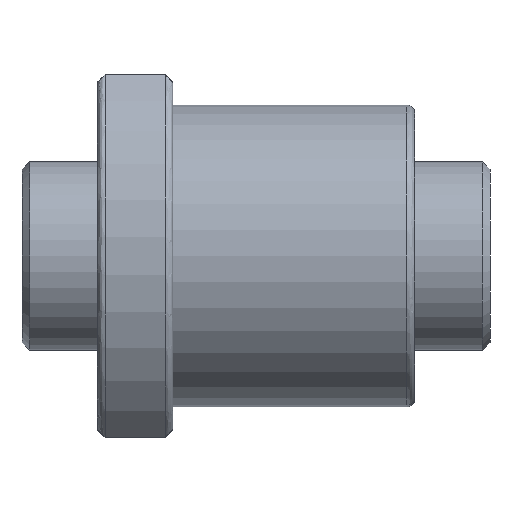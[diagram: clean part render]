
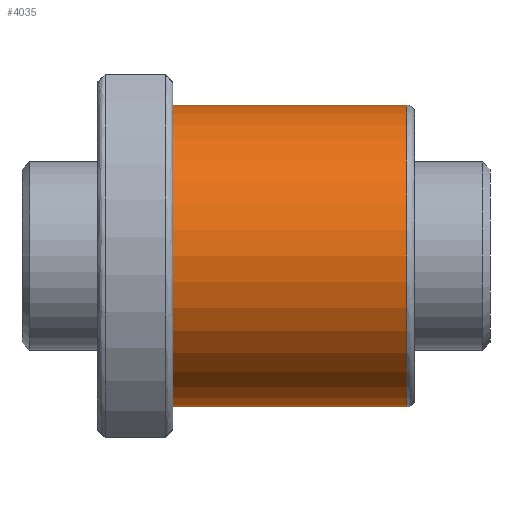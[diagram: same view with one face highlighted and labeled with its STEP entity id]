
A CAD part, front view. The second image highlights one B-rep face of the part: STEP entity #4035.
In plain terms, the highlighted cylindrical face has radius 20 mm (diameter 40 mm), a partial arc.
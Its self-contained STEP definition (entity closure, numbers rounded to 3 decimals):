
#19 = LINE ( 'NONE', #3706, #3997 ) ;
#54 = EDGE_CURVE ( 'NONE', #2564, #4201, #19, .T. ) ;
#143 = CARTESIAN_POINT ( 'NONE',  ( 42., 0., -20. ) ) ;
#231 = CYLINDRICAL_SURFACE ( 'NONE', #4049, 20. ) ;
#284 = DIRECTION ( 'NONE',  ( -1., 0., 0. ) ) ;
#307 = EDGE_CURVE ( 'NONE', #4201, #3646, #4492, .T. ) ;
#323 = ORIENTED_EDGE ( 'NONE', *, *, #2060, .F. ) ;
#346 = CARTESIAN_POINT ( 'NONE',  ( 41., 0., 0. ) ) ;
#1124 = VERTEX_POINT ( 'NONE', #3785 ) ;
#1184 = DIRECTION ( 'NONE',  ( 0., 0., 1. ) ) ;
#1479 = ORIENTED_EDGE ( 'NONE', *, *, #3379, .T. ) ;
#1535 = DIRECTION ( 'NONE',  ( -1., 0., 0. ) ) ;
#1537 = CARTESIAN_POINT ( 'NONE',  ( 10., 0., 0. ) ) ;
#1653 = AXIS2_PLACEMENT_3D ( 'NONE', #346, #3052, #3834 ) ;
#1923 = DIRECTION ( 'NONE',  ( 0., 0., 1. ) ) ;
#2060 = EDGE_CURVE ( 'NONE', #1124, #3646, #3263, .T. ) ;
#2118 = VECTOR ( 'NONE', #284, 1000. ) ;
#2397 = CARTESIAN_POINT ( 'NONE',  ( 10., 0., 20. ) ) ;
#2508 = EDGE_LOOP ( 'NONE', ( #323, #1479, #4898, #3296 ) ) ;
#2564 = VERTEX_POINT ( 'NONE', #3083 ) ;
#2669 = CARTESIAN_POINT ( 'NONE',  ( 42., 0., 0. ) ) ;
#3052 = DIRECTION ( 'NONE',  ( -1., 0., 0. ) ) ;
#3083 = CARTESIAN_POINT ( 'NONE',  ( 41., 0., 20. ) ) ;
#3248 = CARTESIAN_POINT ( 'NONE',  ( 10., 0., -20. ) ) ;
#3260 = AXIS2_PLACEMENT_3D ( 'NONE', #1537, #4234, #1184 ) ;
#3263 = LINE ( 'NONE', #143, #2118 ) ;
#3296 = ORIENTED_EDGE ( 'NONE', *, *, #307, .T. ) ;
#3379 = EDGE_CURVE ( 'NONE', #1124, #2564, #4229, .T. ) ;
#3646 = VERTEX_POINT ( 'NONE', #3248 ) ;
#3706 = CARTESIAN_POINT ( 'NONE',  ( 42., 0., 20. ) ) ;
#3785 = CARTESIAN_POINT ( 'NONE',  ( 41., 0., -20. ) ) ;
#3834 = DIRECTION ( 'NONE',  ( 0., 0., 1. ) ) ;
#3997 = VECTOR ( 'NONE', #4098, 1000. ) ;
#4035 = ADVANCED_FACE ( 'NONE', ( #4759 ), #231, .T. ) ;
#4049 = AXIS2_PLACEMENT_3D ( 'NONE', #2669, #1535, #1923 ) ;
#4098 = DIRECTION ( 'NONE',  ( -1., 0., 0. ) ) ;
#4201 = VERTEX_POINT ( 'NONE', #2397 ) ;
#4229 = CIRCLE ( 'NONE', #1653, 20. ) ;
#4234 = DIRECTION ( 'NONE',  ( 1., 0., 0. ) ) ;
#4492 = CIRCLE ( 'NONE', #3260, 20. ) ;
#4759 = FACE_OUTER_BOUND ( 'NONE', #2508, .T. ) ;
#4898 = ORIENTED_EDGE ( 'NONE', *, *, #54, .T. ) ;
